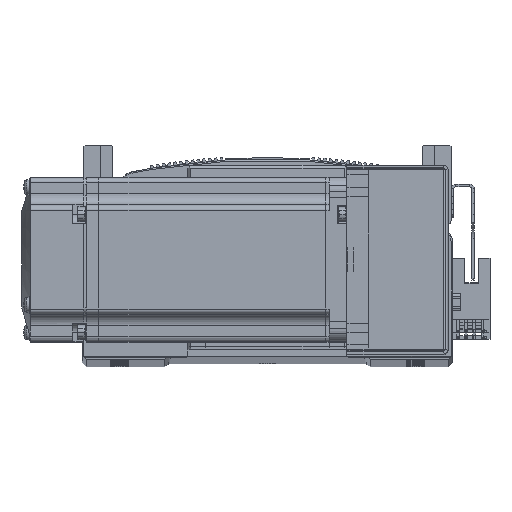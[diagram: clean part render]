
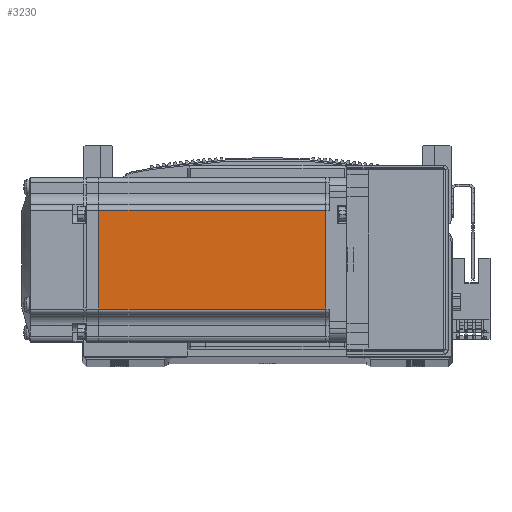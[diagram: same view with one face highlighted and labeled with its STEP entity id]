
A CAD part, top view. The second image highlights one B-rep face of the part: STEP entity #3230.
In plain terms, the highlighted planar face has unit normal (0, 0, 1) as drawn and (0, -1, 0) by its records, which use the part's own axes.
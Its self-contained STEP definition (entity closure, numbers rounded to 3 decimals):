
#3230 = ADVANCED_FACE ( 'NONE', ( #40428 ), #34321, .T. ) ;
#4739 = ORIENTED_EDGE ( 'NONE', *, *, #81190, .T. ) ;
#4803 = ORIENTED_EDGE ( 'NONE', *, *, #81116, .F. ) ;
#4880 = ORIENTED_EDGE ( 'NONE', *, *, #81180, .F. ) ;
#4895 = ORIENTED_EDGE ( 'NONE', *, *, #81156, .T. ) ;
#5129 = EDGE_LOOP ( 'NONE', ( #4880, #4895, #4739, #4803 ) ) ;
#7918 = LINE ( 'NONE', #20696, #7934 ) ;
#7934 = VECTOR ( 'NONE', #20739, 1000. ) ;
#8050 = LINE ( 'NONE', #20995, #8079 ) ;
#8058 = LINE ( 'NONE', #21071, #8127 ) ;
#8074 = VECTOR ( 'NONE', #21024, 1000. ) ;
#8079 = VECTOR ( 'NONE', #20966, 1000. ) ;
#8080 = LINE ( 'NONE', #21062, #8074 ) ;
#8127 = VECTOR ( 'NONE', #21075, 1000. ) ;
#14582 = CARTESIAN_POINT ( 'NONE',  ( -90.45, -30., 18. ) ) ;
#14650 = CARTESIAN_POINT ( 'NONE',  ( -90.45, -30., -18. ) ) ;
#20696 = CARTESIAN_POINT ( 'NONE',  ( -6.5, -30., -18. ) ) ;
#20739 = DIRECTION ( 'NONE',  ( -1., 0., 0. ) ) ;
#20966 = DIRECTION ( 'NONE',  ( -1., 0., 0. ) ) ;
#20995 = CARTESIAN_POINT ( 'NONE',  ( -6.5, -30., 18. ) ) ;
#21024 = DIRECTION ( 'NONE',  ( 0., 0., -1. ) ) ;
#21062 = CARTESIAN_POINT ( 'NONE',  ( -7.75, -30., 0. ) ) ;
#21071 = CARTESIAN_POINT ( 'NONE',  ( -90.45, -30., 0. ) ) ;
#21075 = DIRECTION ( 'NONE',  ( 0., 0., -1. ) ) ;
#31087 = VERTEX_POINT ( 'NONE', #84599 ) ;
#31090 = VERTEX_POINT ( 'NONE', #84610 ) ;
#34288 = CARTESIAN_POINT ( 'NONE',  ( -6.5, -30., -25. ) ) ;
#34294 = DIRECTION ( 'NONE',  ( 0., -1., 0. ) ) ;
#34295 = DIRECTION ( 'NONE',  ( 0., 0., -1. ) ) ;
#34321 = PLANE ( 'NONE',  #38388 ) ;
#38388 = AXIS2_PLACEMENT_3D ( 'NONE', #34288, #34294, #34295 ) ;
#40428 = FACE_OUTER_BOUND ( 'NONE', #5129, .T. ) ;
#43023 = VERTEX_POINT ( 'NONE', #14582 ) ;
#43055 = VERTEX_POINT ( 'NONE', #14650 ) ;
#81116 = EDGE_CURVE ( 'NONE', #31090, #43055, #7918, .T. ) ;
#81156 = EDGE_CURVE ( 'NONE', #31087, #43023, #8050, .T. ) ;
#81180 = EDGE_CURVE ( 'NONE', #31087, #31090, #8080, .T. ) ;
#81190 = EDGE_CURVE ( 'NONE', #43023, #43055, #8058, .T. ) ;
#84599 = CARTESIAN_POINT ( 'NONE',  ( -7.75, -30., 18. ) ) ;
#84610 = CARTESIAN_POINT ( 'NONE',  ( -7.75, -30., -18. ) ) ;
